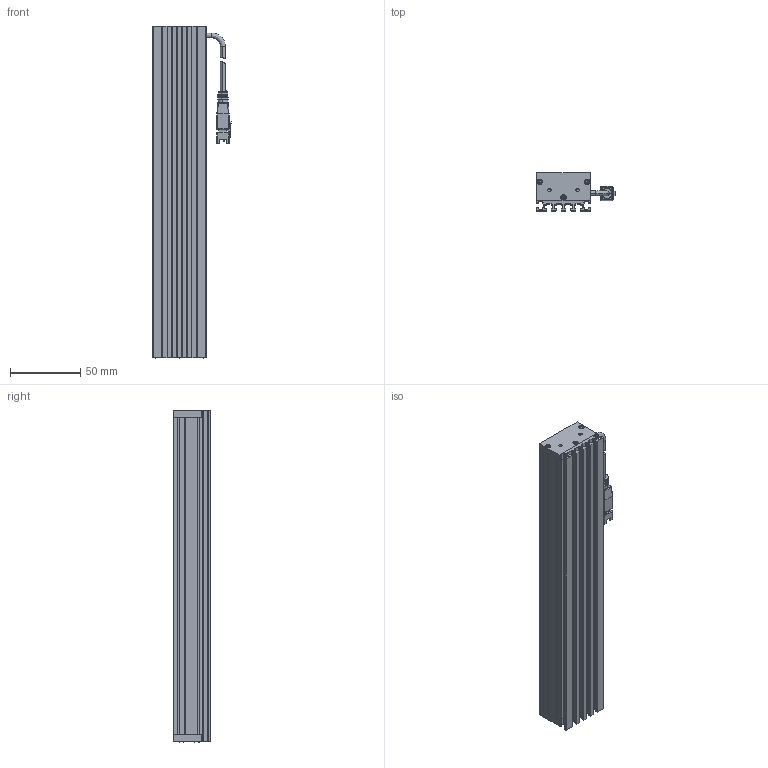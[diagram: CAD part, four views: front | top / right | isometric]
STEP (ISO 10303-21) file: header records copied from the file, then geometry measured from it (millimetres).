
FILE_DESCRIPTION (( 'STEP AP203' ), '1' );
FILE_NAME ('CK-BL23738.STEP', '2026-01-05T02:46:49', ( '' ), ( '' ), 'SwSTEP 2.0', 'SolidWorks 2022', '' );
FILE_SCHEMA (( 'CONFIG_CONTROL_DESIGN' ));
Length unit declared in the file: millimetre
Products named in the file (6): CK-BL23738-003A; 十字沉头螺丝 M2x10; CK-BL23738-002A; CK-BL23738; CK23738-001A; 光源线
Assembly tree (11 placements, depth 2):
  CK-BL23738
    CK23738-001A
    CK-BL23738-002A  x2
    CK-BL23738-003A
    光源线
    十字沉头螺丝 M2x10  x6
Bounding box: 55.84 x 27 x 237 mm (x, y, z)
Volume: 101093.3 mm3; surface area: 87352.6 mm2
Topology: 13 solids, 13 shells, 641 faces, 1692 edges, 1082 vertices
Faces by surface type: plane 353, cylinder 210, cone 46, bspline 32
Entity records: 16373 total; most frequent: CARTESIAN_POINT 3399, ORIENTED_EDGE 2598, DIRECTION 2515, EDGE_CURVE 1299, LINE 875, VECTOR 875, VERTEX_POINT 846, AXIS2_PLACEMENT_3D 820
